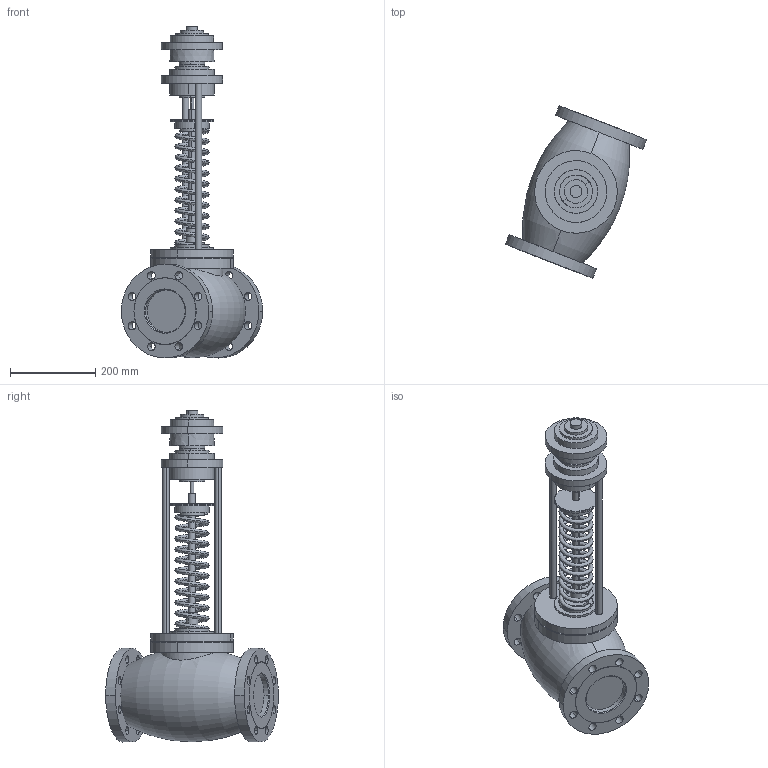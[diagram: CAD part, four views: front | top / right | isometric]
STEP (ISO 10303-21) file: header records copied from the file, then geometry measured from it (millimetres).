
FILE_DESCRIPTION (( 'STEP AP214' ), '1' );
FILE_NAME ('RDT-H-RDT-PH DN100 (0.1).stp', '2025-12-12T11:45:49', ( '' ), ( '' ), 'SwSTEP 2.0', 'SolidWorks 2023', '' );
FILE_SCHEMA (( 'AUTOMOTIVE_DESIGN' ));
Length unit declared in the file: millimetre
Products named in the file (1): RDT-H-RDT-PH DN100 (0.1)
Bounding box: 331.41 x 404.81 x 779 mm (x, y, z)
Volume: 14060570.1 mm3; surface area: 717148.4 mm2
Topology: 1 solids, 2 shells, 163 faces, 372 edges, 240 vertices
Faces by surface type: cylinder 86, plane 37, cone 30, bspline 6, torus 4
Entity records: 9997 total; most frequent: CARTESIAN_POINT 6082, DIRECTION 883, ORIENTED_EDGE 740, AXIS2_PLACEMENT_3D 383, EDGE_CURVE 370, VERTEX_POINT 239, EDGE_LOOP 231, CIRCLE 225
